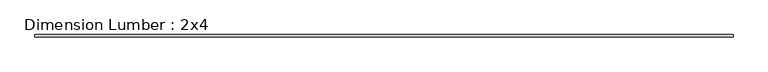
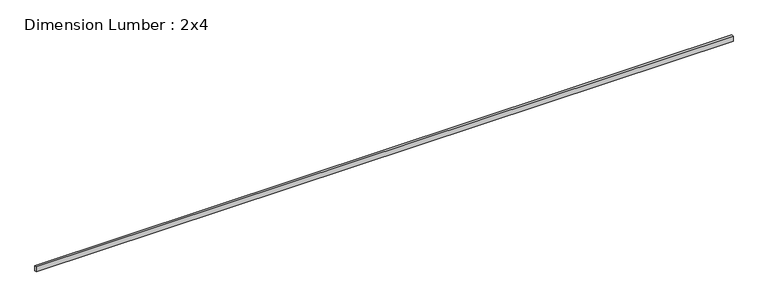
"""IFC4 building model written with IfcOpenShell, lengths in millimetres: beam geometry, Dimension Lumber : 2x4."""

import ifcopenshell
import ifcopenshell.guid

model = None  # the IFC model being written
_history = None  # IfcOwnerHistory: only IFC2X3 demands one
_inside = {}  # id of a spatial element -> (the spatial element, [elements in it])
_under = {}  # id of a project, library or spatial element -> (it, [spatial elements below it])
_declared = {}  # id of a project -> (the project, [libraries it declares])
_typed = {}  # id of a type object -> (the type object, [elements of that type])
_made_of = {}  # id of a material, layer set ... -> (it, [elements and type objects made of it])


def new_model(schema):
    """Start an empty IFC model of exactly this schema.

    Asked for "IFC4X3", IfcOpenShell would pick the latest addendum, in which some entities
    have other attributes; the version numbers below select the first issue.
    IFC2X3 requires an IfcOwnerHistory on every rooted entity: one is made here for all.
    """
    global model, _history
    if schema == "IFC4X3":
        model = ifcopenshell.file(schema_version=(4, 3, 0, 0))
    else:
        model = ifcopenshell.file(schema=schema)
    _inside.clear()
    _under.clear()
    _declared.clear()
    _typed.clear()
    _made_of.clear()
    _history = None
    if model.schema == "IFC2X3":
        org = make("IfcOrganization", Name="unknown")
        user = make(
            "IfcPersonAndOrganization",
            ThePerson=make("IfcPerson", FamilyName="unknown"),
            TheOrganization=org,
        )
        app = make(
            "IfcApplication",
            ApplicationDeveloper=org,
            Version="unknown",
            ApplicationFullName="unknown",
            ApplicationIdentifier="unknown",
        )
        _history = make(
            "IfcOwnerHistory",
            OwningUser=user,
            OwningApplication=app,
            ChangeAction="ADDED",
            CreationDate=0,
        )
    return model


def make(cls, **values):
    """One entity of the class cls with the attributes given. An attribute that is None is left unset."""
    return model.create_entity(
        cls, **{name: value for name, value in values.items() if value is not None}
    )


def rooted(cls, **values):
    """An entity with a GlobalId (a new one), such as an element, a storey or a relation."""
    return make(cls, GlobalId=ifcopenshell.guid.new(), OwnerHistory=_history, **values)


def si_unit(unit_type, name, prefix=None):
    """IfcSIUnit, for example si_unit("LENGTHUNIT", "METRE", prefix="MILLI")."""
    return make("IfcSIUnit", UnitType=unit_type, Prefix=prefix, Name=name)


def assignment(units):
    """IfcUnitAssignment: the units of a project."""
    return None if units is None else make("IfcUnitAssignment", Units=units)


def point(xyz):
    """IfcCartesianPoint."""
    return None if xyz is None else make("IfcCartesianPoint", Coordinates=xyz)


def direction(xyz):
    """IfcDirection."""
    return None if xyz is None else make("IfcDirection", DirectionRatios=xyz)


def frame(location, z_axis=None, x_axis=None):
    """IfcAxis2Placement3D, a coordinate frame: its origin and axes. An axis left out is left unset."""
    return make(
        "IfcAxis2Placement3D",
        Location=point(location),
        Axis=direction(z_axis),
        RefDirection=direction(x_axis),
    )


def origin():
    """The frame at (0, 0, 0) with its axes left unset."""
    return frame((0.0, 0.0, 0.0))


def place(relative_to, where):
    """IfcLocalPlacement: puts the frame where relative to a parent placement (None: the world)."""
    return make(
        "IfcLocalPlacement", PlacementRelTo=relative_to, RelativePlacement=where
    )


def context(
    kind, dimensions, precision=None, world=None, true_north=None, identifier=None
):
    """IfcGeometricRepresentationContext, for example the 3D "Model" context."""
    return make(
        "IfcGeometricRepresentationContext",
        ContextIdentifier=identifier,
        ContextType=kind,
        CoordinateSpaceDimension=dimensions,
        Precision=precision,
        WorldCoordinateSystem=world,
        TrueNorth=true_north,
    )


def project(units=None, contexts=None):
    """IfcProject with its units and contexts."""
    return rooted(
        "IfcProject",
        Name="project",
        RepresentationContexts=contexts,
        UnitsInContext=assignment(units),
    )


def spatial(cls, under=None, at=None, **own):
    """A site, building, storey or space (cls), placed at a placement, below another one or the project."""
    s = rooted(cls, ObjectPlacement=at, **own)
    if under is not None:
        _under.setdefault(under.id(), (under, []))[1].append(s)
    return s


def polyline(points):
    """IfcPolyline through the points."""
    return make("IfcPolyline", Points=[point(p) for p in points])


def outline(outer, holes=None, kind="AREA"):
    """IfcArbitraryClosedProfileDef: a profile drawn as a closed curve; with holes, ...WithVoids."""
    if holes is None:
        return make("IfcArbitraryClosedProfileDef", ProfileType=kind, OuterCurve=outer)
    return make(
        "IfcArbitraryProfileDefWithVoids",
        ProfileType=kind,
        OuterCurve=outer,
        InnerCurves=holes,
    )


def extrude(swept, where, along, depth):
    """IfcExtrudedAreaSolid: the profile swept, set in the frame where, extruded along a direction by depth."""
    return make(
        "IfcExtrudedAreaSolid",
        SweptArea=swept,
        Position=where,
        ExtrudedDirection=direction(along),
        Depth=depth,
    )


def shape(context_of_items, identifier, shape_type, items):
    """IfcShapeRepresentation: the items that make up one representation, for example the "Body"."""
    return make(
        "IfcShapeRepresentation",
        ContextOfItems=context_of_items,
        RepresentationIdentifier=identifier,
        RepresentationType=shape_type,
        Items=items,
    )


def source(mapping_origin, context_of_items, identifier, shape_type, items):
    """IfcRepresentationMap: a shape defined once, which mapped items show again and again."""
    return make(
        "IfcRepresentationMap",
        MappingOrigin=mapping_origin,
        MappedRepresentation=shape(context_of_items, identifier, shape_type, items),
    )


def transform(
    local_origin,
    x_axis=None,
    y_axis=None,
    z_axis=None,
    scale=None,
    scale2=None,
    scale3=None,
    uniform=True,
):
    """IfcCartesianTransformationOperator3D, or its non-uniform kind. x_axis, y_axis, z_axis: its Axis1, 2, 3."""
    if uniform:
        return make(
            "IfcCartesianTransformationOperator3D",
            Axis1=direction(x_axis),
            Axis2=direction(y_axis),
            LocalOrigin=point(local_origin),
            Scale=scale,
            Axis3=direction(z_axis),
        )
    return make(
        "IfcCartesianTransformationOperator3DnonUniform",
        Axis1=direction(x_axis),
        Axis2=direction(y_axis),
        LocalOrigin=point(local_origin),
        Scale=scale,
        Axis3=direction(z_axis),
        Scale2=scale2,
        Scale3=scale3,
    )


def mapped(mapping_source, mapping_target):
    """IfcMappedItem: shows the shape of a source again, moved by a transform."""
    return make(
        "IfcMappedItem", MappingSource=mapping_source, MappingTarget=mapping_target
    )


def made_of(thing, what):
    """Note that an element or type object is made of a material, layer set ...; save() writes the relation."""
    if what is not None:
        _made_of.setdefault(what.id(), (what, []))[1].append(thing)
    return thing


def element(
    cls,
    number,
    at=None,
    inside=None,
    cuts=None,
    type_object=None,
    material=None,
    context=None,
    identifier="Body",
    shape_type=None,
    held_by="IfcProductDefinitionShape",
    body=None,
    shapes=None,
    **own,
):
    """One element of the class cls, such as IfcWall. Its Tag is "e" and its number.

    at: its placement. inside: the storey or other place that contains it. cuts: it is an
    opening in that element (IfcRelVoidsElement). A single representation is given by context,
    identifier, shape_type and body (its items); several are given by shapes. held_by: the class
    of the entity that holds the representations. save() writes the other relations.
    """
    e = rooted(cls, Tag="e%d" % number, ObjectPlacement=at, **own)
    if body is not None:
        shapes = [shape(context, identifier, shape_type, body)]
    if shapes is not None:
        e.Representation = make(held_by, Representations=shapes)
    if inside is not None:
        _inside.setdefault(inside.id(), (inside, []))[1].append(e)
    if cuts is not None:
        rooted(
            "IfcRelVoidsElement", RelatingBuildingElement=cuts, RelatedOpeningElement=e
        )
    if type_object is not None:
        _typed.setdefault(type_object.id(), (type_object, []))[1].append(e)
    return made_of(e, material)


def aggregate(whole, parts):
    """IfcRelAggregates: a whole, such as a stair, and the parts it consists of."""
    return rooted("IfcRelAggregates", RelatingObject=whole, RelatedObjects=parts)


def save(model, path):
    """Write the relations noted so far, then the file.

    IfcRelAggregates (storeys below a building ...), IfcRelContainedInSpatialStructure (elements
    in a storey), IfcRelDefinesByType, IfcRelAssociatesMaterial and IfcRelDeclares: one each for
    every whole, place, type object, material and project.
    """
    for whole, parts in _under.values():
        aggregate(whole, parts)
    for where, things in _inside.values():
        rooted(
            "IfcRelContainedInSpatialStructure",
            RelatedElements=things,
            RelatingStructure=where,
        )
    for kind, things in _typed.values():
        rooted("IfcRelDefinesByType", RelatedObjects=things, RelatingType=kind)
    for what, things in _made_of.values():
        rooted("IfcRelAssociatesMaterial", RelatedObjects=things, RelatingMaterial=what)
    for by, libraries in _declared.values():
        rooted("IfcRelDeclares", RelatingContext=by, RelatedDefinitions=libraries)
    model.write(path)


def dimension_lumber_2x4_2f5de08b(model_context):
    return source(origin(), model_context, "Body", "SweptSolid", [
        extrude(outline(polyline([(5899.15, 19.05), (5899.15, -19.05), (-5873.75, -19.05), (-5873.75, 19.05), (5899.15, 19.05)])), frame((0.0, 0.0, -44.45), z_axis=(0.0, 0.0, 1.0), x_axis=(1.0, 0.0, 0.0)), (0.0, 0.0, 1.0), 88.9),
    ])


if __name__ == "__main__":
    model = new_model("IFC4")
    model_context = context("Model", 3, world=origin())
    ifc_project = project(units=[si_unit("LENGTHUNIT", "METRE", prefix="MILLI")], contexts=[model_context])
    site = spatial("IfcSite", under=ifc_project)
    building = spatial("IfcBuilding", under=site)
    placement = place(None, origin())
    dimension_lumber_2x4_shape = dimension_lumber_2x4_2f5de08b(model_context)
    element("IfcBeam", 1, ObjectType="Dimension Lumber : 2x4", at=placement, inside=building, context=model_context, shape_type="MappedRepresentation", body=[
        mapped(dimension_lumber_2x4_shape, transform((0.0, 0.0, 0.0), x_axis=(1.0, 0.0, 0.0), y_axis=(0.0, 1.0, 0.0), z_axis=(0.0, 0.0, 1.0))),
    ])
    save(model, "model.ifc")
